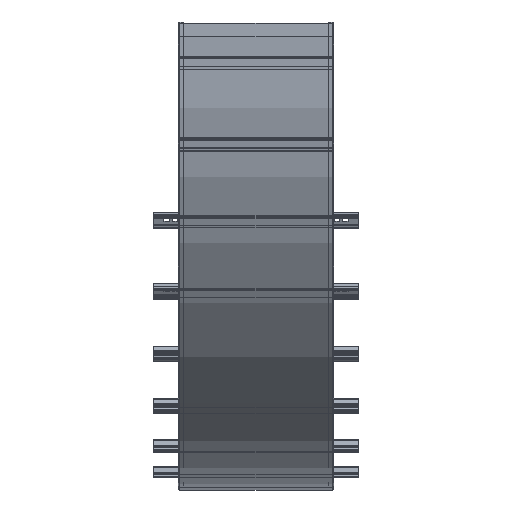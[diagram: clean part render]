
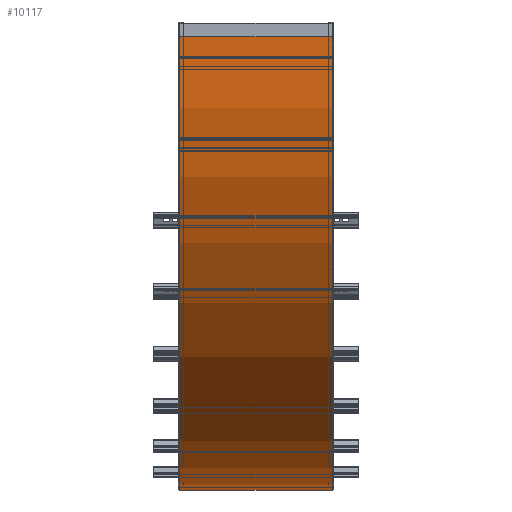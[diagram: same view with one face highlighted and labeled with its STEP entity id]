
A CAD part, front view. The second image highlights one B-rep face of the part: STEP entity #10117.
In plain terms, the highlighted cylindrical face has radius 1348.26 mm (diameter 2696.51 mm), a partial arc.
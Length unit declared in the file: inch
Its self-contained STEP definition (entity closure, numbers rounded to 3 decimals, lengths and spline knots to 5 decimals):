
#9823=CARTESIAN_POINT('',(8.9375,53.041,0.));
#9824=DIRECTION('',(-1.,0.,0.));
#9825=DIRECTION('',(0.,-1.,0.));
#9826=AXIS2_PLACEMENT_3D('',#9823,#9824,#9825);
#9849=CARTESIAN_POINT('',(-8.9375,53.041,0.));
#9850=DIRECTION('',(-1.,0.,0.));
#9851=DIRECTION('',(0.,-1.,0.));
#9852=AXIS2_PLACEMENT_3D('',#9849,#9850,#9851);
#9882=DIRECTION('',(-1.,0.,0.));
#9883=VECTOR('',#9882,17.875);
#9884=CARTESIAN_POINT('',(8.9375,53.041,53.081));
#9885=LINE('',#9884,#9883);
#9886=DIRECTION('',(-1.,0.,0.));
#9887=VECTOR('',#9886,17.875);
#9888=CARTESIAN_POINT('',(8.9375,-0.04,0.));
#9889=LINE('',#9888,#9887);
#9922=CARTESIAN_POINT('',(8.9375,-0.04,0.));
#9924=VERTEX_POINT('',#9922);
#9928=CARTESIAN_POINT('',(-8.9375,-0.04,0.));
#9929=VERTEX_POINT('',#9928);
#9938=CARTESIAN_POINT('',(8.9375,53.041,53.081));
#9939=VERTEX_POINT('',#9938);
#9942=CARTESIAN_POINT('',(-8.9375,53.041,53.081));
#9943=VERTEX_POINT('',#9942);
#10105=CARTESIAN_POINT('',(8.9375,53.041,0.));
#10106=DIRECTION('',(-1.,0.,0.));
#10107=DIRECTION('',(0.,0.,1.));
#10108=AXIS2_PLACEMENT_3D('',#10105,#10106,#10107);
#10109=CYLINDRICAL_SURFACE('',#10108,53.081);
#10110=ORIENTED_EDGE('',*,*,#9985,.F.);
#10112=ORIENTED_EDGE('',*,*,#10111,.T.);
#10113=ORIENTED_EDGE('',*,*,#10042,.T.);
#10114=ORIENTED_EDGE('',*,*,#10097,.F.);
#10115=EDGE_LOOP('',(#10110,#10112,#10113,#10114));
#10116=FACE_OUTER_BOUND('',#10115,.F.);
#10117=ADVANCED_FACE('',(#10116),#10109,.T.);
#9827=CIRCLE('',#9826,53.081);
#9853=CIRCLE('',#9852,53.081);
#9985=EDGE_CURVE('',#9924,#9939,#9827,.T.);
#10042=EDGE_CURVE('',#9929,#9943,#9853,.T.);
#10097=EDGE_CURVE('',#9939,#9943,#9885,.T.);
#10111=EDGE_CURVE('',#9924,#9929,#9889,.T.);
